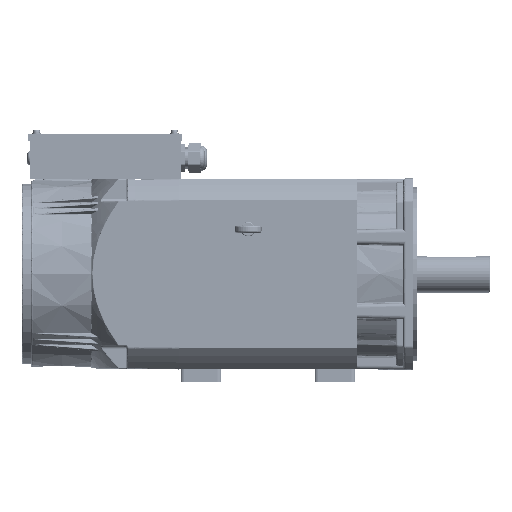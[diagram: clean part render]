
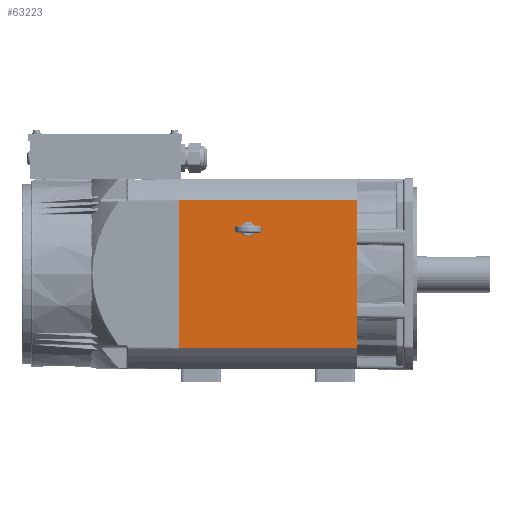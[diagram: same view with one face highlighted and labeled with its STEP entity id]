
A CAD part, top view. The second image highlights one B-rep face of the part: STEP entity #63223.
In plain terms, the highlighted planar face has unit normal (0, 0, 1) as drawn and (0, 1, 0) by its records, which use the part's own axes.
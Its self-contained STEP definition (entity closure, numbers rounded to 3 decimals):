
#18 = CARTESIAN_POINT ( 'NONE',  ( -46.5, 98.5, 113. ) ) ;
#2867 = LINE ( 'NONE', #47876, #86492 ) ;
#4196 = CIRCLE ( 'NONE', #149696, 3.4 ) ;
#10968 = CARTESIAN_POINT ( 'NONE',  ( -76.959, 98.5, 185. ) ) ;
#17944 = DIRECTION ( 'NONE',  ( -1., 0., 0. ) ) ;
#18488 = CARTESIAN_POINT ( 'NONE',  ( -46.5, 98.5, 113. ) ) ;
#32389 = AXIS2_PLACEMENT_3D ( 'NONE', #36609, #171270, #52666 ) ;
#34029 = CIRCLE ( 'NONE', #62282, 3.4 ) ;
#34112 = LINE ( 'NONE', #10968, #130962 ) ;
#35899 = PLANE ( 'NONE',  #32389 ) ;
#36609 = CARTESIAN_POINT ( 'NONE',  ( -76.959, 98.5, 155. ) ) ;
#44315 = EDGE_CURVE ( 'NONE', #62404, #183749, #2867, .T. ) ;
#44959 = EDGE_CURVE ( 'NONE', #70646, #108385, #34029, .T. ) ;
#45746 = CARTESIAN_POINT ( 'NONE',  ( 76.959, 98.5, 185. ) ) ;
#47876 = CARTESIAN_POINT ( 'NONE',  ( 76.959, 98.5, 155. ) ) ;
#49994 = LINE ( 'NONE', #118137, #152156 ) ;
#52666 = DIRECTION ( 'NONE',  ( 1., 0., 0. ) ) ;
#54275 = EDGE_LOOP ( 'NONE', ( #73175, #130699 ) ) ;
#56257 = EDGE_CURVE ( 'NONE', #62404, #164140, #34112, .T. ) ;
#62282 = AXIS2_PLACEMENT_3D ( 'NONE', #18488, #87100, #71672 ) ;
#62404 = VERTEX_POINT ( 'NONE', #45746 ) ;
#63223 = ADVANCED_FACE ( 'NONE', ( #139998, #84974 ), #35899, .F. ) ;
#63239 = ORIENTED_EDGE ( 'NONE', *, *, #44315, .T. ) ;
#63494 = ORIENTED_EDGE ( 'NONE', *, *, #143437, .F. ) ;
#64670 = DIRECTION ( 'NONE',  ( 0., 0., -1. ) ) ;
#65554 = CARTESIAN_POINT ( 'NONE',  ( -46.5, 98.5, 116.4 ) ) ;
#70646 = VERTEX_POINT ( 'NONE', #134538 ) ;
#71672 = DIRECTION ( 'NONE',  ( 0., 0., 1. ) ) ;
#71883 = VERTEX_POINT ( 'NONE', #169414 ) ;
#73175 = ORIENTED_EDGE ( 'NONE', *, *, #171125, .F. ) ;
#74623 = EDGE_CURVE ( 'NONE', #183749, #71883, #49994, .T. ) ;
#77380 = DIRECTION ( 'NONE',  ( -1., 0., 0. ) ) ;
#81020 = CARTESIAN_POINT ( 'NONE',  ( -76.959, 98.5, 185. ) ) ;
#84028 = DIRECTION ( 'NONE',  ( 0., 1., 0. ) ) ;
#84974 = FACE_OUTER_BOUND ( 'NONE', #91928, .T. ) ;
#86492 = VECTOR ( 'NONE', #64670, 1000. ) ;
#87100 = DIRECTION ( 'NONE',  ( 0., 1., 0. ) ) ;
#91928 = EDGE_LOOP ( 'NONE', ( #187214, #63494, #137675, #63239 ) ) ;
#108385 = VERTEX_POINT ( 'NONE', #65554 ) ;
#118137 = CARTESIAN_POINT ( 'NONE',  ( -76.959, 98.5, 0. ) ) ;
#127576 = LINE ( 'NONE', #162789, #143340 ) ;
#127968 = CARTESIAN_POINT ( 'NONE',  ( 76.959, 98.5, 0. ) ) ;
#130699 = ORIENTED_EDGE ( 'NONE', *, *, #44959, .F. ) ;
#130962 = VECTOR ( 'NONE', #77380, 1000. ) ;
#134538 = CARTESIAN_POINT ( 'NONE',  ( -46.5, 98.5, 109.6 ) ) ;
#137675 = ORIENTED_EDGE ( 'NONE', *, *, #56257, .F. ) ;
#139998 = FACE_BOUND ( 'NONE', #54275, .T. ) ;
#143340 = VECTOR ( 'NONE', #211672, 1000. ) ;
#143437 = EDGE_CURVE ( 'NONE', #164140, #71883, #127576, .T. ) ;
#149696 = AXIS2_PLACEMENT_3D ( 'NONE', #18, #84028, #186438 ) ;
#152156 = VECTOR ( 'NONE', #17944, 1000. ) ;
#162789 = CARTESIAN_POINT ( 'NONE',  ( -76.959, 98.5, 155. ) ) ;
#164140 = VERTEX_POINT ( 'NONE', #81020 ) ;
#169414 = CARTESIAN_POINT ( 'NONE',  ( -76.959, 98.5, 0. ) ) ;
#171125 = EDGE_CURVE ( 'NONE', #108385, #70646, #4196, .T. ) ;
#171270 = DIRECTION ( 'NONE',  ( 0., -1., 0. ) ) ;
#183749 = VERTEX_POINT ( 'NONE', #127968 ) ;
#186438 = DIRECTION ( 'NONE',  ( 0., 0., 1. ) ) ;
#187214 = ORIENTED_EDGE ( 'NONE', *, *, #74623, .T. ) ;
#211672 = DIRECTION ( 'NONE',  ( 0., 0., -1. ) ) ;
